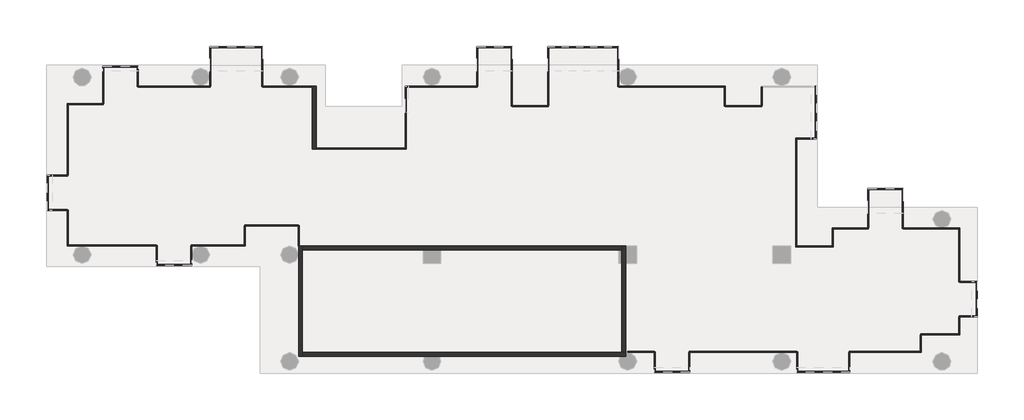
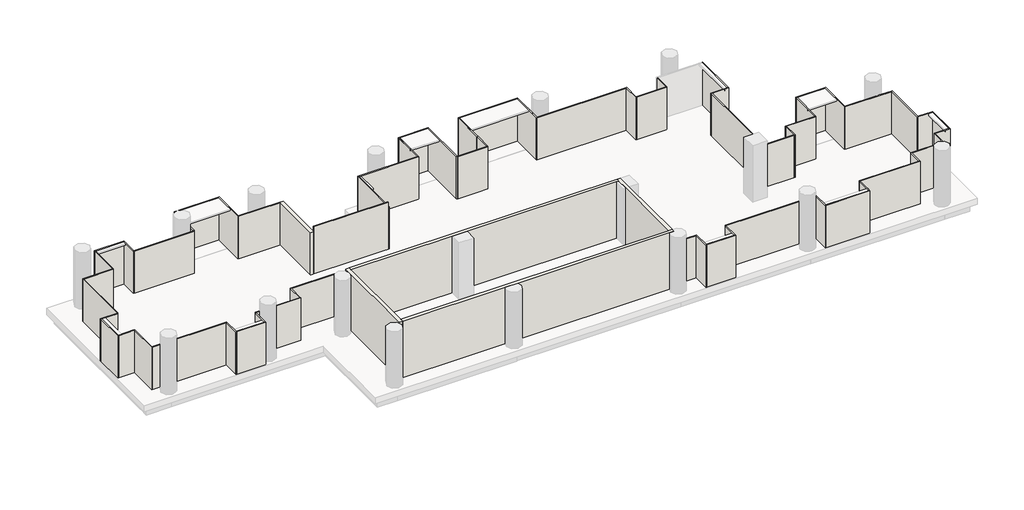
# One storey, part 1 of 2: 68 walls.
"""IFC4 building model written with IfcOpenShell, lengths in millimetres."""

from ifc_helpers import new_model, si_unit, frame, origin, place, context, project, spatial, polyline, outline, extrude, faceted_brep, element, save

model = new_model("IFC4")

# Units and contexts
model_context = context("Model", 3, world=origin())
ifc_project = project(units=[si_unit("LENGTHUNIT", "METRE", prefix="MILLI")], contexts=[model_context])

# Site, building, storey
site = spatial("IfcSite", under=ifc_project)
building = spatial("IfcBuilding", under=site)
storey = spatial("IfcBuildingStorey", under=building, Name="TW-L 19", Elevation=67599.9999686)

# Walls
placement = place(None, origin())
element("IfcWall", 1, ObjectType="AJN-ARC-CONCRETE WALL-20cm", at=placement, inside=storey, context=model_context, shape_type="Brep", body=[
    faceted_brep([(113050.0, 30750.0, 71199.9999686), (113050.0, 30750.0, 67599.9999686), (113050.0, 25150.0, 67599.9999686), (113050.0, 25150.0, 71199.9999686), (113250.0, 30750.0, 67599.9999686), (113250.0, 30750.0, 71199.9999686), (113250.0, 30550.0, 71199.9999686), (113250.0, 25350.0, 71199.9999686), (113250.0, 25150.0, 71199.9999686), (113250.0, 25150.0, 67599.9999686), (113250.0, 25350.0, 67599.9999686), (113250.0, 30550.0, 67599.9999686), (113097.1743518, 30750.0, 67599.9999686)], [[[0, 1, 2, 3]], [[4, 5, 6, 7, 8, 9, 10, 11]], [[2, 1, 12, 4, 11, 10, 9]], [[0, 3, 8, 7, 6, 5]], [[3, 2, 9, 8]], [[0, 5, 4, 12, 1]]]),
])
element("IfcWall", 2, ObjectType="AJN-ARC-CONCRETE WALL-20cm", at=placement, inside=storey, context=model_context, shape_type="Brep", body=[
    faceted_brep([(113250.0, 25150.0, 67599.9999686), (119425.8342613, 25150.0, 67599.9999686), (120174.1657387, 25150.0, 67599.9999686), (129325.8342613, 25150.0, 67599.9999686), (129600.0, 25150.0, 67599.9999686), (129600.0, 25150.0, 71199.9999686), (129325.8342613, 25150.0, 71199.9999686), (120174.1657387, 25150.0, 71199.9999686), (119425.8342613, 25150.0, 71199.9999686), (113250.0, 25150.0, 71199.9999686), (113250.0, 25350.0, 67599.9999686), (113250.0, 25350.0, 71199.9999686), (129400.0, 25350.0, 71199.9999686), (129600.0, 25350.0, 71199.9999686), (129600.0, 25350.0, 67599.9999686), (129400.0, 25350.0, 67599.9999686), (129600.0, 25338.7482194, 67599.9999686), (129600.0, 25338.7482194, 71199.9999686)], [[[0, 1, 2, 3, 4, 5, 6, 7, 8, 9]], [[10, 11, 12, 13, 14, 15]], [[4, 3, 2, 1, 0, 10, 15, 14, 16]], [[9, 8, 7, 6, 5, 17, 13, 12, 11]], [[5, 4, 16, 14, 13, 17]], [[0, 9, 11, 10]]]),
])
element("IfcWall", 3, ObjectType="AJN-ARC-CONCRETE WALL-20cm", at=placement, inside=storey, context=model_context, shape_type="Brep", body=[
    faceted_brep([(129600.0, 25350.0, 67599.9999686), (129600.0, 29850.0, 67599.9999686), (129600.0, 30750.0, 67599.9999686), (129600.0, 30750.0, 71199.9999686), (129600.0, 29850.0, 71199.9999686), (129600.0, 25350.0, 71199.9999686), (129400.0, 25350.0, 67599.9999686), (129400.0, 25350.0, 71199.9999686), (129400.0, 29850.0, 71199.9999686), (129400.0, 30550.0, 71199.9999686), (129400.0, 30750.0, 71199.9999686), (129400.0, 30750.0, 67599.9999686), (129400.0, 30550.0, 67599.9999686), (129400.0, 29850.0, 67599.9999686)], [[[0, 1, 2, 3, 4, 5]], [[6, 7, 8, 9, 10, 11, 12, 13]], [[2, 1, 0, 6, 13, 12, 11]], [[5, 4, 3, 10, 9, 8, 7]], [[3, 2, 11, 10]], [[0, 5, 7, 6]]]),
])
element("IfcWall", 4, ObjectType="AJN-ARC-CONCRETE WALL-20cm", at=placement, inside=storey, context=model_context, shape_type="Brep", body=[
    faceted_brep([(129400.0, 30750.0, 67599.9999686), (113250.0, 30750.0, 67599.9999686), (113250.0, 30750.0, 71199.9999686), (129400.0, 30750.0, 71199.9999686), (129400.0, 30550.0, 67599.9999686), (129400.0, 30550.0, 71199.9999686), (129250.0, 30550.0, 71199.9999686), (120250.0, 30550.0, 71199.9999686), (119350.0, 30550.0, 71199.9999686), (113250.0, 30550.0, 71199.9999686), (113250.0, 30550.0, 67599.9999686), (119350.0, 30550.0, 67599.9999686), (120250.0, 30550.0, 67599.9999686), (129250.0, 30550.0, 67599.9999686)], [[[0, 1, 2, 3]], [[4, 5, 6, 7, 8, 9, 10, 11, 12, 13]], [[1, 0, 4, 13, 12, 11, 10]], [[3, 2, 9, 8, 7, 6, 5]], [[0, 3, 5, 4]], [[1, 10, 9, 2]]]),
])
element("IfcWall", 5, ObjectType="AJN-ARC-CONCRETE WALL-20cm", at=placement, inside=storey, context=model_context, shape_type="Brep", body=[
    faceted_brep([(113950.0, 35650.0, 67599.9999686), (113950.0, 38850.001152, 67599.9999686), (113950.0, 38850.001152, 70299.9999686), (113950.0, 35650.0, 70299.9999686), (113750.0, 35650.0, 67599.9999686), (113750.0, 35650.0, 70299.9999686), (113750.0, 38800.0010666, 70299.9999686), (113750.0, 38850.0010666, 70299.9999686), (113750.0, 38850.0010666, 67599.9999686), (113750.0, 38800.0010666, 67599.9999686)], [[[0, 1, 2, 3]], [[4, 5, 6, 7, 8, 9]], [[1, 0, 4, 9, 8]], [[3, 2, 7, 6, 5]], [[0, 3, 5, 4]], [[2, 1, 8, 7]]]),
])
element("IfcWall", 6, ObjectType="AJN-ARC-GLASS-50mm", at=placement, inside=storey, context=model_context, shape_type="SweptSolid", body=[
    extrude(outline(polyline([(111250.0, 38850.0), (113750.0, 38850.0010666), (113750.0, 38800.0010666), (111250.0000213, 38800.0), (111250.0, 38850.0)])), frame((0.0, 0.0, 67599.9999686), z_axis=(0.0, 0.0, 1.0), x_axis=(1.0, 0.0, 0.0)), (0.0, 0.0, 1.0), 2700.0),
])
element("IfcWall", 7, ObjectType="AJN-ARC-GLASS-50mm", at=placement, inside=storey, context=model_context, shape_type="Brep", body=[
    faceted_brep([(111250.0, 38824.9999893, 67599.9999686), (111250.0, 40850.0, 67599.9999686), (111250.0, 40850.0, 70299.9999686), (111250.0, 38824.9999893, 70299.9999686), (111200.0, 38824.9999893, 67599.9999686), (111200.0, 38824.9999893, 70299.9999686), (111200.0, 40800.0, 70299.9999686), (111200.0, 40850.0, 70299.9999686), (111200.0, 40850.0, 67599.9999686), (111200.0, 40800.0, 67599.9999686)], [[[0, 1, 2, 3]], [[4, 5, 6, 7, 8, 9]], [[1, 0, 4, 9, 8]], [[3, 2, 7, 6, 5]], [[0, 3, 5, 4]], [[2, 1, 8, 7]]]),
])
element("IfcWall", 8, ObjectType="AJN-ARC-GLASS-50mm", at=placement, inside=storey, context=model_context, shape_type="Brep", body=[
    faceted_brep([(111200.0, 40850.0, 67599.9999686), (108550.0, 40850.0, 67599.9999686), (108550.0, 40850.0, 70299.9999686), (111200.0, 40850.0, 70299.9999686), (111200.0, 40800.0, 67599.9999686), (111200.0, 40800.0, 70299.9999686), (108600.0, 40800.0, 70299.9999686), (108550.0, 40800.0, 70299.9999686), (108550.0, 40800.0, 67599.9999686), (108600.0, 40800.0, 67599.9999686)], [[[0, 1, 2, 3]], [[4, 5, 6, 7, 8, 9]], [[1, 0, 4, 9, 8]], [[3, 2, 7, 6, 5]], [[2, 1, 8, 7]], [[0, 3, 5, 4]]]),
])
element("IfcWall", 9, ObjectType="AJN-ARC-GLASS-50mm", at=placement, inside=storey, context=model_context, shape_type="SweptSolid", body=[
    extrude(outline(polyline([(108550.0, 38850.0), (108550.0, 40800.0), (108600.0, 40800.0), (108600.0, 38850.0), (108550.0, 38850.0)])), frame((0.0, 0.0, 67599.9999686), z_axis=(0.0, 0.0, 1.0), x_axis=(1.0, 0.0, 0.0)), (0.0, 0.0, 1.0), 2700.0),
])
element("IfcWall", 10, ObjectType="AJN-ARC-GLASS-50mm", at=placement, inside=storey, context=model_context, shape_type="SweptSolid", body=[
    extrude(outline(polyline([(104950.0, 38850.0), (108575.0, 38850.0), (108575.0, 38800.0), (104950.0, 38800.0), (104950.0, 38850.0)])), frame((0.0, 0.0, 67599.9999686), z_axis=(0.0, 0.0, 1.0), x_axis=(1.0, 0.0, 0.0)), (0.0, 0.0, 1.0), 2700.0),
])
element("IfcWall", 11, ObjectType="AJN-ARC-GLASS-50mm", at=placement, inside=storey, context=model_context, shape_type="Brep", body=[
    faceted_brep([(104950.0, 38825.0, 67599.9999686), (104950.0, 39850.0, 67599.9999686), (104950.0, 39850.0, 70299.9999686), (104950.0, 38825.0, 70299.9999686), (104900.0, 38825.0, 67599.9999686), (104900.0, 38825.0, 70299.9999686), (104900.0, 39800.0, 70299.9999686), (104900.0, 39850.0, 70299.9999686), (104900.0, 39850.0, 67599.9999686), (104900.0, 39800.0, 67599.9999686)], [[[0, 1, 2, 3]], [[4, 5, 6, 7, 8, 9]], [[1, 0, 4, 9, 8]], [[3, 2, 7, 6, 5]], [[0, 3, 5, 4]], [[2, 1, 8, 7]]]),
])
element("IfcWall", 12, ObjectType="AJN-ARC-GLASS-50mm", at=placement, inside=storey, context=model_context, shape_type="Brep", body=[
    faceted_brep([(104900.0, 39850.0, 67599.9999686), (103150.0, 39850.0, 67599.9999686), (103150.0, 39850.0, 70299.9999686), (104900.0, 39850.0, 70299.9999686), (104900.0, 39800.0, 67599.9999686), (104900.0, 39800.0, 70299.9999686), (103200.0, 39800.0, 70299.9999686), (103150.0, 39800.0, 70299.9999686), (103150.0, 39800.0, 67599.9999686), (103200.0, 39800.0, 67599.9999686)], [[[0, 1, 2, 3]], [[4, 5, 6, 7, 8, 9]], [[1, 0, 4, 9, 8]], [[3, 2, 7, 6, 5]], [[2, 1, 8, 7]], [[0, 3, 5, 4]]]),
])
element("IfcWall", 13, ObjectType="AJN-ARC-GLASS-50mm", at=placement, inside=storey, context=model_context, shape_type="SweptSolid", body=[
    extrude(outline(polyline([(103150.0, 37950.0), (103150.0, 39800.0), (103200.0, 39800.0), (103200.0, 37950.0), (103150.0, 37950.0)])), frame((0.0, 0.0, 67599.9999686), z_axis=(0.0, 0.0, 1.0), x_axis=(1.0, 0.0, 0.0)), (0.0, 0.0, 1.0), 2700.0),
])
element("IfcWall", 14, ObjectType="AJN-ARC-GLASS-50mm", at=placement, inside=storey, context=model_context, shape_type="Brep", body=[
    faceted_brep([(103175.0, 37950.0, 67599.9999686), (101347.1743518, 37950.0, 67599.9999686), (101347.1743518, 37950.0, 70299.9999686), (103175.0, 37950.0, 70299.9999686), (103175.0, 37900.0, 67599.9999686), (103175.0, 37900.0, 70299.9999686), (101397.1743518, 37900.0, 70299.9999686), (101347.1743518, 37900.0, 70299.9999686), (101347.1743518, 37900.0, 67599.9999686), (101397.1743518, 37900.0, 67599.9999686)], [[[0, 1, 2, 3]], [[4, 5, 6, 7, 8, 9]], [[1, 0, 4, 9, 8]], [[3, 2, 7, 6, 5]], [[0, 3, 5, 4]], [[2, 1, 8, 7]]]),
])
element("IfcWall", 15, ObjectType="AJN-ARC-GLASS-50mm", at=placement, inside=storey, context=model_context, shape_type="SweptSolid", body=[
    extrude(outline(polyline([(101347.1743518, 34350.0), (101347.1743518, 37900.0), (101397.1743518, 37900.0), (101397.1743518, 34350.0), (101347.1743518, 34350.0)])), frame((0.0, 0.0, 67599.9999686), z_axis=(0.0, 0.0, 1.0), x_axis=(1.0, 0.0, 0.0)), (0.0, 0.0, 1.0), 2700.0),
])
element("IfcWall", 16, ObjectType="AJN-ARC-GLASS-50mm", at=placement, inside=storey, context=model_context, shape_type="Brep", body=[
    faceted_brep([(101372.1743518, 34350.0, 67599.9999686), (100347.1743518, 34350.0, 67599.9999686), (100347.1743518, 34350.0, 70299.9999686), (101372.1743518, 34350.0, 70299.9999686), (101372.1743518, 34300.0, 67599.9999686), (101372.1743518, 34300.0, 70299.9999686), (100397.1743518, 34300.0, 70299.9999686), (100347.1743518, 34300.0, 70299.9999686), (100347.1743518, 34300.0, 67599.9999686), (100397.1743518, 34300.0, 67599.9999686)], [[[0, 1, 2, 3]], [[4, 5, 6, 7, 8, 9]], [[1, 0, 4, 9, 8]], [[3, 2, 7, 6, 5]], [[0, 3, 5, 4]], [[2, 1, 8, 7]]]),
])
element("IfcWall", 17, ObjectType="AJN-ARC-GLASS-50mm", at=placement, inside=storey, context=model_context, shape_type="Brep", body=[
    faceted_brep([(100347.1743518, 34300.0, 67599.9999686), (100347.1743518, 32550.0, 67599.9999686), (100347.1743518, 32550.0, 70299.9999686), (100347.1743518, 34300.0, 70299.9999686), (100397.1743518, 34300.0, 67599.9999686), (100397.1743518, 34300.0, 70299.9999686), (100397.1743518, 32600.0, 70299.9999686), (100397.1743518, 32550.0, 70299.9999686), (100397.1743518, 32550.0, 67599.9999686), (100397.1743518, 32600.0, 67599.9999686)], [[[0, 1, 2, 3]], [[4, 5, 6, 7, 8, 9]], [[1, 0, 4, 9, 8]], [[3, 2, 7, 6, 5]], [[2, 1, 8, 7]], [[0, 3, 5, 4]]]),
])
element("IfcWall", 18, ObjectType="AJN-ARC-GLASS-50mm", at=placement, inside=storey, context=model_context, shape_type="SweptSolid", body=[
    extrude(outline(polyline([(101347.1743518, 32550.0), (100397.1743518, 32550.0), (100397.1743518, 32600.0), (101347.1743518, 32600.0), (101347.1743518, 32550.0)])), frame((0.0, 0.0, 67599.9999686), z_axis=(0.0, 0.0, 1.0), x_axis=(1.0, 0.0, 0.0)), (0.0, 0.0, 1.0), 2700.0),
])
element("IfcWall", 19, ObjectType="AJN-ARC-GLASS-50mm", at=placement, inside=storey, context=model_context, shape_type="Brep", body=[
    faceted_brep([(101347.1743518, 32575.0, 67599.9999686), (101347.1743518, 30750.0, 67599.9999686), (101347.1743518, 30750.0, 70299.9999686), (101347.1743518, 32575.0, 70299.9999686), (101397.1743518, 32575.0, 67599.9999686), (101397.1743518, 32575.0, 70299.9999686), (101397.1743518, 30800.0, 70299.9999686), (101397.1743518, 30750.0, 70299.9999686), (101397.1743518, 30750.0, 67599.9999686), (101397.1743518, 30800.0, 67599.9999686)], [[[0, 1, 2, 3]], [[4, 5, 6, 7, 8, 9]], [[1, 0, 4, 9, 8]], [[3, 2, 7, 6, 5]], [[0, 3, 5, 4]], [[2, 1, 8, 7]]]),
])
element("IfcWall", 20, ObjectType="AJN-ARC-GLASS-50mm", at=placement, inside=storey, context=model_context, shape_type="SweptSolid", body=[
    extrude(outline(polyline([(105847.1743518, 30750.0), (101397.1743518, 30750.0), (101397.1743518, 30800.0), (105847.1743518, 30800.0), (105847.1743518, 30750.0)])), frame((0.0, 0.0, 67599.9999686), z_axis=(0.0, 0.0, 1.0), x_axis=(1.0, 0.0, 0.0)), (0.0, 0.0, 1.0), 2700.0),
])
element("IfcWall", 21, ObjectType="AJN-ARC-GLASS-50mm", at=placement, inside=storey, context=model_context, shape_type="Brep", body=[
    faceted_brep([(105847.1743518, 30775.0, 67599.9999686), (105847.1743518, 29750.0, 67599.9999686), (105847.1743518, 29750.0, 70299.9999686), (105847.1743518, 30775.0, 70299.9999686), (105897.1743518, 30775.0, 67599.9999686), (105897.1743518, 30775.0, 70299.9999686), (105897.1743518, 29800.0, 70299.9999686), (105897.1743518, 29750.0, 70299.9999686), (105897.1743518, 29750.0, 67599.9999686), (105897.1743518, 29800.0, 67599.9999686)], [[[0, 1, 2, 3]], [[4, 5, 6, 7, 8, 9]], [[1, 0, 4, 9, 8]], [[3, 2, 7, 6, 5]], [[0, 3, 5, 4]], [[2, 1, 8, 7]]]),
])
element("IfcWall", 22, ObjectType="AJN-ARC-GLASS-50mm", at=placement, inside=storey, context=model_context, shape_type="Brep", body=[
    faceted_brep([(105897.1743518, 29750.0, 67599.9999686), (107647.1743518, 29750.0, 67599.9999686), (107647.1743518, 29750.0, 70299.9999686), (105897.1743518, 29750.0, 70299.9999686), (105897.1743518, 29800.0, 67599.9999686), (105897.1743518, 29800.0, 70299.9999686), (107597.1743518, 29800.0, 70299.9999686), (107647.1743518, 29800.0, 70299.9999686), (107647.1743518, 29800.0, 67599.9999686), (107597.1743518, 29800.0, 67599.9999686)], [[[0, 1, 2, 3]], [[4, 5, 6, 7, 8, 9]], [[1, 0, 4, 9, 8]], [[3, 2, 7, 6, 5]], [[2, 1, 8, 7]], [[0, 3, 5, 4]]]),
])
element("IfcWall", 23, ObjectType="AJN-ARC-GLASS-50mm", at=placement, inside=storey, context=model_context, shape_type="SweptSolid", body=[
    extrude(outline(polyline([(107647.1743518, 30750.0), (107647.1743518, 29800.0), (107597.1743518, 29800.0), (107597.1743518, 30750.0), (107647.1743518, 30750.0)])), frame((0.0, 0.0, 67599.9999686), z_axis=(0.0, 0.0, 1.0), x_axis=(1.0, 0.0, 0.0)), (0.0, 0.0, 1.0), 2700.0),
])
element("IfcWall", 24, ObjectType="AJN-ARC-GLASS-50mm", at=placement, inside=storey, context=model_context, shape_type="Brep", body=[
    faceted_brep([(107622.1743518, 30750.0, 67599.9999686), (110347.1743518, 30750.0, 67599.9999686), (110347.1743518, 30750.0, 70299.9999686), (107622.1743518, 30750.0, 70299.9999686), (107622.1743518, 30800.0, 67599.9999686), (107622.1743518, 30800.0, 70299.9999686), (110297.1743518, 30800.0, 70299.9999686), (110347.1743518, 30800.0, 70299.9999686), (110347.1743518, 30800.0, 67599.9999686), (110297.1743518, 30800.0, 67599.9999686)], [[[0, 1, 2, 3]], [[4, 5, 6, 7, 8, 9]], [[1, 0, 4, 9, 8]], [[3, 2, 7, 6, 5]], [[0, 3, 5, 4]], [[2, 1, 8, 7]]]),
])
element("IfcWall", 25, ObjectType="AJN-ARC-GLASS-50mm", at=placement, inside=storey, context=model_context, shape_type="SweptSolid", body=[
    extrude(outline(polyline([(110347.1743518, 31750.0), (110347.1743518, 30800.0), (110297.1743518, 30800.0), (110297.1743518, 31750.0), (110347.1743518, 31750.0)])), frame((0.0, 0.0, 67599.9999686), z_axis=(0.0, 0.0, 1.0), x_axis=(1.0, 0.0, 0.0)), (0.0, 0.0, 1.0), 2700.0),
])
element("IfcWall", 26, ObjectType="AJN-ARC-GLASS-50mm", at=placement, inside=storey, context=model_context, shape_type="SweptSolid", body=[
    extrude(outline(polyline([(113047.1743518, 31750.0), (110322.1743518, 31750.0), (110322.1743518, 31800.0), (113047.1743518, 31800.0), (113047.1743518, 31750.0)])), frame((0.0, 0.0, 67599.9999686), z_axis=(0.0, 0.0, 1.0), x_axis=(1.0, 0.0, 0.0)), (0.0, 0.0, 1.0), 2700.0),
])
element("IfcWall", 27, ObjectType="AJN-ARC-GLASS-50mm", at=placement, inside=storey, context=model_context, shape_type="Brep", body=[
    faceted_brep([(113047.1743518, 31775.0, 67599.9999686), (113047.1743518, 30750.0, 67599.9999686), (113047.1743518, 30750.0, 70299.9999686), (113047.1743518, 31775.0, 70299.9999686), (113097.1743518, 31775.0, 67599.9999686), (113097.1743518, 31775.0, 70299.9999686), (113097.1743518, 30750.0, 70299.9999686), (113097.1743518, 30750.0, 67599.9999686), (113050.0, 30750.0, 67599.9999686)], [[[0, 1, 2, 3]], [[4, 5, 6, 7]], [[1, 0, 4, 7, 8]], [[3, 2, 6, 5]], [[0, 3, 5, 4]], [[2, 1, 8, 7, 6]]]),
])
element("IfcWall", 28, ObjectType="AJN-ARC-GLASS-50mm", at=placement, inside=storey, context=model_context, shape_type="Brep", body=[
    faceted_brep([(138250.0, 30700.0, 67599.9999686), (138250.0, 30750.0, 67599.9999686), (138250.0, 36150.0, 67599.9999686), (138250.0, 36150.0, 70299.9999686), (138250.0, 30750.0, 70299.9999686), (138250.0, 30700.0, 70299.9999686), (138200.0, 30700.0, 67599.9999686), (138200.0, 30700.0, 70299.9999686), (138200.0, 36150.0, 70299.9999686), (138200.0, 36150.0, 67599.9999686)], [[[0, 1, 2, 3, 4, 5]], [[6, 7, 8, 9]], [[2, 1, 0, 6, 9]], [[5, 4, 3, 8, 7]], [[0, 5, 7, 6]], [[3, 2, 9, 8]]]),
])
element("IfcWall", 29, ObjectType="AJN-ARC-GLASS-50mm", at=placement, inside=storey, context=model_context, shape_type="Brep", body=[
    faceted_brep([(138200.0, 36150.0, 67599.9999686), (138250.0, 36150.0, 67599.9999686), (139250.0, 36150.0, 67599.9999686), (139250.0, 36150.0, 70299.9999686), (138250.0, 36150.0, 70299.9999686), (138200.0, 36150.0, 70299.9999686), (138200.0, 36200.0, 67599.9999686), (138200.0, 36200.0, 70299.9999686), (139200.0, 36200.0, 70299.9999686), (139250.0, 36200.0, 70299.9999686), (139250.0, 36200.0, 67599.9999686), (139200.0, 36200.0, 67599.9999686)], [[[0, 1, 2, 3, 4, 5]], [[6, 7, 8, 9, 10, 11]], [[2, 1, 0, 6, 11, 10]], [[5, 4, 3, 9, 8, 7]], [[3, 2, 10, 9]], [[0, 5, 7, 6]]]),
])
element("IfcWall", 30, ObjectType="AJN-ARC-GLASS-50mm", at=placement, inside=storey, context=model_context, shape_type="Brep", body=[
    faceted_brep([(139250.0, 36200.0, 67599.9999686), (139250.0, 38850.0, 67599.9999686), (139250.0, 38850.0, 70299.9999686), (139250.0, 36200.0, 70299.9999686), (139200.0, 36200.0, 67599.9999686), (139200.0, 36200.0, 70299.9999686), (139200.0, 38800.0, 70299.9999686), (139200.0, 38850.0, 70299.9999686), (139200.0, 38850.0, 67599.9999686), (139200.0, 38800.0, 67599.9999686)], [[[0, 1, 2, 3]], [[4, 5, 6, 7, 8, 9]], [[1, 0, 4, 9, 8]], [[3, 2, 7, 6, 5]], [[2, 1, 8, 7]], [[0, 3, 5, 4]]]),
])
element("IfcWall", 31, ObjectType="AJN-ARC-GLASS-50mm", at=placement, inside=storey, context=model_context, shape_type="SweptSolid", body=[
    extrude(outline(polyline([(136450.0, 37850.0), (136450.0, 38800.0), (136500.0, 38800.0), (136500.0, 37850.0), (136450.0, 37850.0)])), frame((0.0, 0.0, 67599.9999686), z_axis=(0.0, 0.0, 1.0), x_axis=(1.0, 0.0, 0.0)), (0.0, 0.0, 1.0), 2700.0),
])
element("IfcWall", 32, ObjectType="AJN-ARC-GLASS-50mm", at=placement, inside=storey, context=model_context, shape_type="SweptSolid", body=[
    extrude(outline(polyline([(134650.0, 37850.0), (136475.0, 37850.0), (136475.0, 37800.0), (134650.0, 37800.0), (134650.0, 37850.0)])), frame((0.0, 0.0, 67599.9999686), z_axis=(0.0, 0.0, 1.0), x_axis=(1.0, 0.0, 0.0)), (0.0, 0.0, 1.0), 2700.0),
])
element("IfcWall", 33, ObjectType="AJN-ARC-GLASS-50mm", at=placement, inside=storey, context=model_context, shape_type="Brep", body=[
    faceted_brep([(134650.0, 37825.0, 67599.9999686), (134650.0, 38850.0, 67599.9999686), (134650.0, 38850.0, 70299.9999686), (134650.0, 37825.0, 70299.9999686), (134600.0, 37825.0, 67599.9999686), (134600.0, 37825.0, 70299.9999686), (134600.0, 38800.0, 70299.9999686), (134600.0, 38850.0, 70299.9999686), (134600.0, 38850.0, 67599.9999686), (134600.0, 38800.0, 67599.9999686)], [[[0, 1, 2, 3]], [[4, 5, 6, 7, 8, 9]], [[1, 0, 4, 9, 8]], [[3, 2, 7, 6, 5]], [[0, 3, 5, 4]], [[2, 1, 8, 7]]]),
])
element("IfcWall", 34, ObjectType="AJN-ARC-GLASS-50mm", at=placement, inside=storey, context=model_context, shape_type="SweptSolid", body=[
    extrude(outline(polyline([(129250.0, 38850.0), (134600.0, 38850.0), (134600.0, 38800.0), (129250.0, 38800.0), (129250.0, 38850.0)])), frame((0.0, 0.0, 67599.9999686), z_axis=(0.0, 0.0, 1.0), x_axis=(1.0, 0.0, 0.0)), (0.0, 0.0, 1.0), 2700.0),
])
element("IfcWall", 35, ObjectType="AJN-ARC-GLASS-50mm", at=placement, inside=storey, context=model_context, shape_type="Brep", body=[
    faceted_brep([(129250.0, 38825.0, 67599.9999686), (129250.0, 40850.0, 67599.9999686), (129250.0, 40850.0, 70299.9999686), (129250.0, 38825.0, 70299.9999686), (129200.0, 38825.0, 67599.9999686), (129200.0, 38825.0, 70299.9999686), (129200.0, 40800.0, 70299.9999686), (129200.0, 40850.0, 70299.9999686), (129200.0, 40850.0, 67599.9999686), (129200.0, 40800.0, 67599.9999686)], [[[0, 1, 2, 3]], [[4, 5, 6, 7, 8, 9]], [[1, 0, 4, 9, 8]], [[3, 2, 7, 6, 5]], [[0, 3, 5, 4]], [[2, 1, 8, 7]]]),
])
element("IfcWall", 36, ObjectType="AJN-ARC-GLASS-50mm", at=placement, inside=storey, context=model_context, shape_type="Brep", body=[
    faceted_brep([(129200.0, 40850.0, 67599.9999686), (125650.0, 40850.0, 67599.9999686), (125650.0, 40850.0, 70299.9999686), (129200.0, 40850.0, 70299.9999686), (129200.0, 40800.0, 67599.9999686), (129200.0, 40800.0, 70299.9999686), (125700.0, 40800.0, 70299.9999686), (125650.0, 40800.0, 70299.9999686), (125650.0, 40800.0, 67599.9999686), (125700.0, 40800.0, 67599.9999686)], [[[0, 1, 2, 3]], [[4, 5, 6, 7, 8, 9]], [[1, 0, 4, 9, 8]], [[3, 2, 7, 6, 5]], [[2, 1, 8, 7]], [[0, 3, 5, 4]]]),
])
element("IfcWall", 37, ObjectType="AJN-ARC-GLASS-50mm", at=placement, inside=storey, context=model_context, shape_type="SweptSolid", body=[
    extrude(outline(polyline([(125650.0, 38875.0), (125650.0, 40800.0), (125700.0, 40800.0), (125700.0, 38875.0), (125650.0, 38875.0)])), frame((0.0, 0.0, 67599.9999686), z_axis=(0.0, 0.0, 1.0), x_axis=(1.0, 0.0, 0.0)), (0.0, 0.0, 1.0), 2700.0),
])
element("IfcWall", 38, ObjectType="AJN-ARC-GLASS-50mm", at=placement, inside=storey, context=model_context, shape_type="SweptSolid", body=[
    extrude(outline(polyline([(125660.049155, 37850.0), (125660.049155, 38850.0), (125710.049155, 38850.0), (125710.049155, 37850.0), (125660.049155, 37850.0)])), frame((0.0, 0.0, 67599.9999686), z_axis=(0.0, 0.0, 1.0), x_axis=(1.0, 0.0, 0.0)), (0.0, 0.0, 1.0), 2700.0),
])
element("IfcWall", 39, ObjectType="AJN-ARC-GLASS-50mm", at=placement, inside=storey, context=model_context, shape_type="SweptSolid", body=[
    extrude(outline(polyline([(123860.049155, 37850.0), (125685.049155, 37850.0), (125685.049155, 37800.0), (123860.049155, 37800.0), (123860.049155, 37850.0)])), frame((0.0, 0.0, 67599.9999686), z_axis=(0.0, 0.0, 1.0), x_axis=(1.0, 0.0, 0.0)), (0.0, 0.0, 1.0), 2700.0),
])
element("IfcWall", 40, ObjectType="AJN-ARC-GLASS-50mm", at=placement, inside=storey, context=model_context, shape_type="Brep", body=[
    faceted_brep([(123860.049155, 37825.0, 67599.9999686), (123860.049155, 40850.0, 67599.9999686), (123860.049155, 40850.0, 70299.9999686), (123860.049155, 37825.0, 70299.9999686), (123810.049155, 37825.0, 67599.9999686), (123810.049155, 37825.0, 70299.9999686), (123810.049155, 40800.0, 70299.9999686), (123810.049155, 40850.0, 70299.9999686), (123810.049155, 40850.0, 67599.9999686), (123810.049155, 40800.0, 67599.9999686)], [[[0, 1, 2, 3]], [[4, 5, 6, 7, 8, 9]], [[1, 0, 4, 9, 8]], [[3, 2, 7, 6, 5]], [[0, 3, 5, 4]], [[2, 1, 8, 7]]]),
])
element("IfcWall", 41, ObjectType="AJN-ARC-GLASS-50mm", at=placement, inside=storey, context=model_context, shape_type="Brep", body=[
    faceted_brep([(123810.049155, 40850.0, 67599.9999686), (122060.049155, 40850.0, 67599.9999686), (122060.049155, 40850.0, 70299.9999686), (123810.049155, 40850.0, 70299.9999686), (123810.049155, 40800.0, 67599.9999686), (123810.049155, 40800.0, 70299.9999686), (122110.049155, 40800.0, 70299.9999686), (122060.049155, 40800.0, 70299.9999686), (122060.049155, 40800.0, 67599.9999686), (122110.049155, 40800.0, 67599.9999686)], [[[0, 1, 2, 3]], [[4, 5, 6, 7, 8, 9]], [[1, 0, 4, 9, 8]], [[3, 2, 7, 6, 5]], [[2, 1, 8, 7]], [[0, 3, 5, 4]]]),
])
element("IfcWall", 42, ObjectType="AJN-ARC-GLASS-50mm", at=placement, inside=storey, context=model_context, shape_type="SweptSolid", body=[
    extrude(outline(polyline([(122060.049155, 38850.0), (122060.049155, 40800.0), (122110.049155, 40800.0), (122110.049155, 38850.0), (122060.049155, 38850.0)])), frame((0.0, 0.0, 67599.9999686), z_axis=(0.0, 0.0, 1.0), x_axis=(1.0, 0.0, 0.0)), (0.0, 0.0, 1.0), 2700.0),
])
element("IfcWall", 43, ObjectType="AJN-ARC-GLASS-50mm", at=placement, inside=storey, context=model_context, shape_type="Brep", body=[
    faceted_brep([(122085.049155, 38850.0, 67599.9999686), (118450.0, 38850.0, 67599.9999686), (118450.0, 38850.0, 70299.9999686), (122085.049155, 38850.0, 70299.9999686), (122085.049155, 38800.0, 67599.9999686), (122085.049155, 38800.0, 70299.9999686), (118500.0, 38800.0, 70299.9999686), (118450.0, 38800.0, 70299.9999686), (118450.0, 38800.0, 67599.9999686), (118500.0, 38800.0, 67599.9999686)], [[[0, 1, 2, 3]], [[4, 5, 6, 7, 8, 9]], [[1, 0, 4, 9, 8]], [[3, 2, 7, 6, 5]], [[0, 3, 5, 4]], [[2, 1, 8, 7]]]),
])
element("IfcWall", 44, ObjectType="AJN-ARC-GLASS-50mm", at=placement, inside=storey, context=model_context, shape_type="SweptSolid", body=[
    extrude(outline(polyline([(131050.3663867, 25350.0), (129714.068817, 25350.0), (129714.068817, 25400.0), (131050.3663867, 25400.0), (131050.3663867, 25350.0)])), frame((0.0, 0.0, 67599.9999686), z_axis=(0.0, 0.0, 1.0), x_axis=(1.0, 0.0, 0.0)), (0.0, 0.0, 1.0), 2700.0),
])
element("IfcWall", 45, ObjectType="AJN-ARC-GLASS-50mm", at=placement, inside=storey, context=model_context, shape_type="Brep", body=[
    faceted_brep([(131050.3663867, 25375.0, 67599.9999686), (131050.3663867, 24350.0, 67599.9999686), (131050.3663867, 24350.0, 70299.9999686), (131050.3663867, 25375.0, 70299.9999686), (131100.3663867, 25375.0, 67599.9999686), (131100.3663867, 25375.0, 70299.9999686), (131100.3663867, 24400.0, 70299.9999686), (131100.3663867, 24350.0, 70299.9999686), (131100.3663867, 24350.0, 67599.9999686), (131100.3663867, 24400.0, 67599.9999686)], [[[0, 1, 2, 3]], [[4, 5, 6, 7, 8, 9]], [[1, 0, 4, 9, 8]], [[3, 2, 7, 6, 5]], [[0, 3, 5, 4]], [[2, 1, 8, 7]]]),
])
element("IfcWall", 46, ObjectType="AJN-ARC-GLASS-50mm", at=placement, inside=storey, context=model_context, shape_type="Brep", body=[
    faceted_brep([(131100.3663867, 24350.0, 67599.9999686), (132850.3663867, 24350.0, 67599.9999686), (132850.3663867, 24350.0, 70299.9999686), (131100.3663867, 24350.0, 70299.9999686), (131100.3663867, 24400.0, 67599.9999686), (131100.3663867, 24400.0, 70299.9999686), (132800.3663867, 24400.0, 70299.9999686), (132850.3663867, 24400.0, 70299.9999686), (132850.3663867, 24400.0, 67599.9999686), (132800.3663867, 24400.0, 67599.9999686)], [[[0, 1, 2, 3]], [[4, 5, 6, 7, 8, 9]], [[1, 0, 4, 9, 8]], [[3, 2, 7, 6, 5]], [[2, 1, 8, 7]], [[0, 3, 5, 4]]]),
])
element("IfcWall", 47, ObjectType="AJN-ARC-GLASS-50mm", at=placement, inside=storey, context=model_context, shape_type="SweptSolid", body=[
    extrude(outline(polyline([(132850.3663867, 25350.0), (132850.3663867, 24400.0), (132800.3663867, 24400.0), (132800.3663867, 25350.0), (132850.3663867, 25350.0)])), frame((0.0, 0.0, 67599.9999686), z_axis=(0.0, 0.0, 1.0), x_axis=(1.0, 0.0, 0.0)), (0.0, 0.0, 1.0), 2700.0),
])
element("IfcWall", 48, ObjectType="AJN-ARC-GLASS-50mm", at=placement, inside=storey, context=model_context, shape_type="SweptSolid", body=[
    extrude(outline(polyline([(138250.1449327, 25350.0), (132825.3663867, 25350.0), (132825.3663867, 25400.0), (138250.1449327, 25400.0), (138250.1449327, 25350.0)])), frame((0.0, 0.0, 67599.9999686), z_axis=(0.0, 0.0, 1.0), x_axis=(1.0, 0.0, 0.0)), (0.0, 0.0, 1.0), 2700.0),
])
element("IfcWall", 49, ObjectType="AJN-ARC-GLASS-50mm", at=placement, inside=storey, context=model_context, shape_type="Brep", body=[
    faceted_brep([(138250.1449327, 25375.0, 67599.9999686), (138250.1449327, 24350.0, 67599.9999686), (138250.1449327, 24350.0, 70299.9999686), (138250.1449327, 25375.0, 70299.9999686), (138300.1449327, 25375.0, 67599.9999686), (138300.1449327, 25375.0, 70299.9999686), (138300.1449327, 24400.0, 70299.9999686), (138300.1449327, 24350.0, 70299.9999686), (138300.1449327, 24350.0, 67599.9999686), (138300.1449327, 24400.0, 67599.9999686)], [[[0, 1, 2, 3]], [[4, 5, 6, 7, 8, 9]], [[1, 0, 4, 9, 8]], [[3, 2, 7, 6, 5]], [[0, 3, 5, 4]], [[2, 1, 8, 7]]]),
])
element("IfcWall", 50, ObjectType="AJN-ARC-GLASS-50mm", at=placement, inside=storey, context=model_context, shape_type="Brep", body=[
    faceted_brep([(138300.1449327, 24350.0, 67599.9999686), (140950.1449327, 24350.0, 67599.9999686), (140950.1449327, 24350.0, 70299.9999686), (138300.1449327, 24350.0, 70299.9999686), (138300.1449327, 24400.0, 67599.9999686), (138300.1449327, 24400.0, 70299.9999686), (140900.1449327, 24400.0, 70299.9999686), (140950.1449327, 24400.0, 70299.9999686), (140950.1449327, 24400.0, 67599.9999686), (140900.1449327, 24400.0, 67599.9999686)], [[[0, 1, 2, 3]], [[4, 5, 6, 7, 8, 9]], [[1, 0, 4, 9, 8]], [[3, 2, 7, 6, 5]], [[2, 1, 8, 7]], [[0, 3, 5, 4]]]),
])
element("IfcWall", 51, ObjectType="AJN-ARC-GLASS-50mm", at=placement, inside=storey, context=model_context, shape_type="SweptSolid", body=[
    extrude(outline(polyline([(140950.1449327, 25350.0), (140950.1449327, 24400.0), (140900.1449327, 24400.0), (140900.1449327, 25350.0), (140950.1449327, 25350.0)])), frame((0.0, 0.0, 67599.9999686), z_axis=(0.0, 0.0, 1.0), x_axis=(1.0, 0.0, 0.0)), (0.0, 0.0, 1.0), 2700.0),
])
element("IfcWall", 52, ObjectType="AJN-ARC-GLASS-50mm", at=placement, inside=storey, context=model_context, shape_type="Brep", body=[
    faceted_brep([(140925.1449327, 25350.0, 67599.9999686), (144550.0, 25350.0, 67599.9999686), (144550.0, 25350.0, 70299.9999686), (140925.1449327, 25350.0, 70299.9999686), (140925.1449327, 25400.0, 67599.9999686), (140925.1449327, 25400.0, 70299.9999686), (144500.0, 25400.0, 70299.9999686), (144550.0, 25400.0, 70299.9999686), (144550.0, 25400.0, 67599.9999686), (144500.0, 25400.0, 67599.9999686)], [[[0, 1, 2, 3]], [[4, 5, 6, 7, 8, 9]], [[1, 0, 4, 9, 8]], [[3, 2, 7, 6, 5]], [[0, 3, 5, 4]], [[2, 1, 8, 7]]]),
])
element("IfcWall", 53, ObjectType="AJN-ARC-GLASS-50mm", at=placement, inside=storey, context=model_context, shape_type="SweptSolid", body=[
    extrude(outline(polyline([(144550.0, 26241.1051005), (144550.0, 25400.0), (144500.0, 25400.0), (144500.0, 26241.1051005), (144550.0, 26241.1051005)])), frame((0.0, 0.0, 67599.9999686), z_axis=(0.0, 0.0, 1.0), x_axis=(1.0, 0.0, 0.0)), (0.0, 0.0, 1.0), 2700.0),
])
element("IfcWall", 54, ObjectType="AJN-ARC-GLASS-50mm", at=placement, inside=storey, context=model_context, shape_type="Brep", body=[
    faceted_brep([(144525.0, 26241.1051005, 67599.9999686), (146497.681474, 26241.1051005, 67599.9999686), (146497.681474, 26241.1051005, 70299.9999686), (144525.0, 26241.1051005, 70299.9999686), (144525.0, 26291.1051005, 67599.9999686), (144525.0, 26291.1051005, 70299.9999686), (146447.681474, 26291.1051005, 70299.9999686), (146497.681474, 26291.1051005, 70299.9999686), (146497.681474, 26291.1051005, 67599.9999686), (146447.681474, 26291.1051005, 67599.9999686)], [[[0, 1, 2, 3]], [[4, 5, 6, 7, 8, 9]], [[1, 0, 4, 9, 8]], [[3, 2, 7, 6, 5]], [[0, 3, 5, 4]], [[2, 1, 8, 7]]]),
])
element("IfcWall", 55, ObjectType="AJN-ARC-GLASS-50mm", at=placement, inside=storey, context=model_context, shape_type="SweptSolid", body=[
    extrude(outline(polyline([(146497.681474, 27148.986399), (146497.681474, 26291.1051005), (146447.681474, 26291.1051005), (146447.681474, 27148.986399), (146497.681474, 27148.986399)])), frame((0.0, 0.0, 67599.9999686), z_axis=(0.0, 0.0, 1.0), x_axis=(1.0, 0.0, 0.0)), (0.0, 0.0, 1.0), 2700.0),
])
element("IfcWall", 56, ObjectType="AJN-ARC-GLASS-50mm", at=placement, inside=storey, context=model_context, shape_type="Brep", body=[
    faceted_brep([(146472.681474, 27148.986399, 67599.9999686), (147397.681474, 27148.986399, 67599.9999686), (147397.681474, 27148.986399, 70299.9999686), (146472.681474, 27148.986399, 70299.9999686), (146472.681474, 27198.986399, 67599.9999686), (146472.681474, 27198.986399, 70299.9999686), (147347.681474, 27198.986399, 70299.9999686), (147397.681474, 27198.986399, 70299.9999686), (147397.681474, 27198.986399, 67599.9999686), (147347.681474, 27198.986399, 67599.9999686)], [[[0, 1, 2, 3]], [[4, 5, 6, 7, 8, 9]], [[1, 0, 4, 9, 8]], [[3, 2, 7, 6, 5]], [[0, 3, 5, 4]], [[2, 1, 8, 7]]]),
])
element("IfcWall", 57, ObjectType="AJN-ARC-GLASS-50mm", at=placement, inside=storey, context=model_context, shape_type="Brep", body=[
    faceted_brep([(147397.681474, 27198.986399, 67599.9999686), (147397.681474, 28948.986399, 67599.9999686), (147397.681474, 28948.986399, 70299.9999686), (147397.681474, 27198.986399, 70299.9999686), (147347.681474, 27198.986399, 67599.9999686), (147347.681474, 27198.986399, 70299.9999686), (147347.681474, 28898.986399, 70299.9999686), (147347.681474, 28948.986399, 70299.9999686), (147347.681474, 28948.986399, 67599.9999686), (147347.681474, 28898.986399, 67599.9999686)], [[[0, 1, 2, 3]], [[4, 5, 6, 7, 8, 9]], [[1, 0, 4, 9, 8]], [[3, 2, 7, 6, 5]], [[2, 1, 8, 7]], [[0, 3, 5, 4]]]),
])
element("IfcWall", 58, ObjectType="AJN-ARC-GLASS-50mm", at=placement, inside=storey, context=model_context, shape_type="SweptSolid", body=[
    extrude(outline(polyline([(146497.681474, 28948.986399), (147347.681474, 28948.986399), (147347.681474, 28898.986399), (146497.681474, 28898.986399), (146497.681474, 28948.986399)])), frame((0.0, 0.0, 67599.9999686), z_axis=(0.0, 0.0, 1.0), x_axis=(1.0, 0.0, 0.0)), (0.0, 0.0, 1.0), 2700.0),
])
element("IfcWall", 59, ObjectType="AJN-ARC-GLASS-50mm", at=placement, inside=storey, context=model_context, shape_type="Brep", body=[
    faceted_brep([(146497.681474, 28923.986399, 67599.9999686), (146497.681474, 31651.6593424, 67599.9999686), (146497.681474, 31651.6593424, 70299.9999686), (146497.681474, 28923.986399, 70299.9999686), (146447.681474, 28923.986399, 67599.9999686), (146447.681474, 28923.986399, 70299.9999686), (146447.681474, 31601.6593424, 70299.9999686), (146447.681474, 31651.6593424, 70299.9999686), (146447.681474, 31651.6593424, 67599.9999686), (146447.681474, 31601.6593424, 67599.9999686)], [[[0, 1, 2, 3]], [[4, 5, 6, 7, 8, 9]], [[1, 0, 4, 9, 8]], [[3, 2, 7, 6, 5]], [[0, 3, 5, 4]], [[2, 1, 8, 7]]]),
])
element("IfcWall", 60, ObjectType="AJN-ARC-GLASS-50mm", at=placement, inside=storey, context=model_context, shape_type="Brep", body=[
    faceted_brep([(146447.681474, 31651.6593424, 67599.9999686), (145638.6089983, 31651.6593424, 67599.9999686), (145561.3910017, 31651.6593424, 67599.9999686), (143650.0, 31651.6593424, 67599.9999686), (143650.0, 31651.6593424, 70299.9999686), (145561.3910017, 31651.6593424, 70299.9999686), (145638.6089983, 31651.6593424, 70299.9999686), (146447.681474, 31651.6593424, 70299.9999686), (146447.681474, 31601.6593424, 67599.9999686), (146447.681474, 31601.6593424, 70299.9999686), (143650.0, 31601.6593424, 70299.9999686), (143650.0, 31601.6593424, 67599.9999686)], [[[0, 1, 2, 3, 4, 5, 6, 7]], [[8, 9, 10, 11]], [[3, 2, 1, 0, 8, 11]], [[4, 3, 11, 10]], [[7, 6, 5, 4, 10, 9]], [[0, 7, 9, 8]]]),
])
element("IfcWall", 61, ObjectType="AJN-ARC-GLASS-50mm", at=placement, inside=storey, context=model_context, shape_type="Brep", body=[
    faceted_brep([(143650.0, 31626.6593424, 67599.9999686), (143650.0, 33651.6593424, 67599.9999686), (143650.0, 33651.6593424, 70299.9999686), (143650.0, 31626.6593424, 70299.9999686), (143600.0, 31626.6593424, 67599.9999686), (143600.0, 31626.6593424, 70299.9999686), (143600.0, 33601.6593424, 70299.9999686), (143600.0, 33651.6593424, 70299.9999686), (143600.0, 33651.6593424, 67599.9999686), (143600.0, 33601.6593424, 67599.9999686)], [[[0, 1, 2, 3]], [[4, 5, 6, 7, 8, 9]], [[1, 0, 4, 9, 8]], [[3, 2, 7, 6, 5]], [[0, 3, 5, 4]], [[2, 1, 8, 7]]]),
])
element("IfcWall", 62, ObjectType="AJN-ARC-GLASS-50mm", at=placement, inside=storey, context=model_context, shape_type="Brep", body=[
    faceted_brep([(143600.0, 33651.6593424, 67599.9999686), (141850.0, 33651.6593424, 67599.9999686), (141850.0, 33651.6593424, 70299.9999686), (143600.0, 33651.6593424, 70299.9999686), (143600.0, 33601.6593424, 67599.9999686), (143600.0, 33601.6593424, 70299.9999686), (141900.0, 33601.6593424, 70299.9999686), (141850.0, 33601.6593424, 70299.9999686), (141850.0, 33601.6593424, 67599.9999686), (141900.0, 33601.6593424, 67599.9999686)], [[[0, 1, 2, 3]], [[4, 5, 6, 7, 8, 9]], [[1, 0, 4, 9, 8]], [[3, 2, 7, 6, 5]], [[2, 1, 8, 7]], [[0, 3, 5, 4]]]),
])
element("IfcWall", 63, ObjectType="AJN-ARC-GLASS-50mm", at=placement, inside=storey, context=model_context, shape_type="SweptSolid", body=[
    extrude(outline(polyline([(141850.0, 31651.6593424), (141850.0, 33601.6593424), (141900.0, 33601.6593424), (141900.0, 31651.6593424), (141850.0, 31651.6593424)])), frame((0.0, 0.0, 67599.9999686), z_axis=(0.0, 0.0, 1.0), x_axis=(1.0, 0.0, 0.0)), (0.0, 0.0, 1.0), 2700.0),
])
element("IfcWall", 64, ObjectType="AJN-ARC-GLASS-50mm", at=placement, inside=storey, context=model_context, shape_type="Brep", body=[
    faceted_brep([(141875.0, 31651.6593424, 67599.9999686), (140050.0, 31651.6593424, 67599.9999686), (140050.0, 31651.6593424, 70299.9999686), (141875.0, 31651.6593424, 70299.9999686), (141875.0, 31601.6593424, 67599.9999686), (141875.0, 31601.6593424, 70299.9999686), (140100.0, 31601.6593424, 70299.9999686), (140050.0, 31601.6593424, 70299.9999686), (140050.0, 31601.6593424, 67599.9999686), (140100.0, 31601.6593424, 67599.9999686)], [[[0, 1, 2, 3]], [[4, 5, 6, 7, 8, 9]], [[1, 0, 4, 9, 8]], [[3, 2, 7, 6, 5]], [[0, 3, 5, 4]], [[2, 1, 8, 7]]]),
])
element("IfcWall", 65, ObjectType="AJN-ARC-GLASS-50mm", at=placement, inside=storey, context=model_context, shape_type="Brep", body=[
    faceted_brep([(140050.0, 31601.6593424, 67599.9999686), (140050.0, 30750.0, 67599.9999686), (140050.0, 30700.0, 67599.9999686), (140050.0, 30700.0, 70299.9999686), (140050.0, 30750.0, 70299.9999686), (140050.0, 31601.6593424, 70299.9999686), (140100.0, 31601.6593424, 67599.9999686), (140100.0, 31601.6593424, 70299.9999686), (140100.0, 30700.0, 70299.9999686), (140100.0, 30700.0, 67599.9999686)], [[[0, 1, 2, 3, 4, 5]], [[6, 7, 8, 9]], [[2, 1, 0, 6, 9]], [[5, 4, 3, 8, 7]], [[0, 5, 7, 6]], [[3, 2, 9, 8]]]),
])
element("IfcWall", 66, ObjectType="AJN-ARC-GLASS-50mm", at=placement, inside=storey, context=model_context, shape_type="SweptSolid", body=[
    extrude(outline(polyline([(138250.0, 30750.0), (140050.0, 30750.0), (140050.0, 30700.0), (138250.0, 30700.0), (138250.0, 30750.0)])), frame((0.0, 0.0, 67599.9999686), z_axis=(0.0, 0.0, 1.0), x_axis=(1.0, 0.0, 0.0)), (0.0, 0.0, 1.0), 2700.0),
])
element("IfcWall", 67, ObjectType="AJN-ARC-GLASS-50mm", at=placement, inside=storey, context=model_context, shape_type="SweptSolid", body=[
    extrude(outline(polyline([(118450.0, 35650.0), (118450.0, 38800.0), (118500.0, 38800.0), (118500.0, 35650.0), (118450.0, 35650.0)])), frame((0.0, 0.0, 67599.9999686), z_axis=(0.0, 0.0, 1.0), x_axis=(1.0, 0.0, 0.0)), (0.0, 0.0, 1.0), 2700.0),
])
element("IfcWall", 68, ObjectType="AJN-ARC-GLASS-50mm", at=placement, inside=storey, context=model_context, shape_type="SweptSolid", body=[
    extrude(outline(polyline([(118450.0, 35650.0), (113950.0, 35650.0), (113950.0, 35700.0), (118450.0, 35700.0), (118450.0, 35650.0)])), frame((0.0, 0.0, 67599.9999686), z_axis=(0.0, 0.0, 1.0), x_axis=(1.0, 0.0, 0.0)), (0.0, 0.0, 1.0), 3000.0),
])

save(model, "model.ifc")
